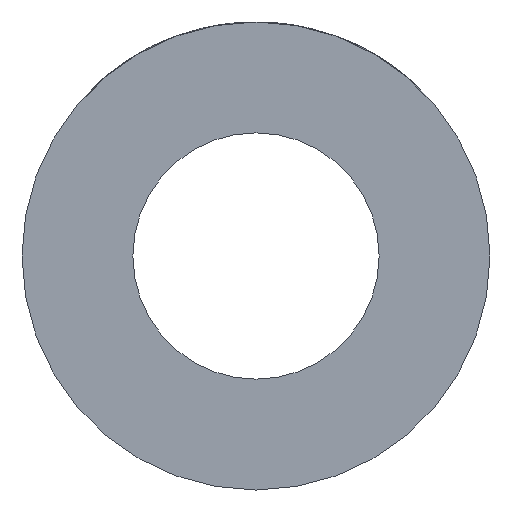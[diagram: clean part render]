
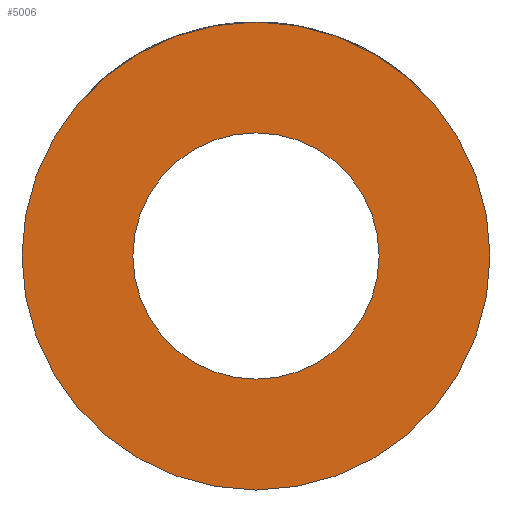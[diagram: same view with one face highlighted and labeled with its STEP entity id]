
A CAD part, left-side view. The second image highlights one B-rep face of the part: STEP entity #5006.
In plain terms, the highlighted planar face has unit normal (-1, 0, 0).
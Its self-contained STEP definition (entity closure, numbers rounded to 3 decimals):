
#112=PLANE('',#5397);
#345=CIRCLE('',#5396,9.5);
#346=CIRCLE('',#5398,5.);
#1497=ORIENTED_EDGE('',*,*,#3005,.T.);
#1498=ORIENTED_EDGE('',*,*,#3004,.F.);
#3004=EDGE_CURVE('',#3758,#3758,#345,.T.);
#3005=EDGE_CURVE('',#3759,#3759,#346,.T.);
#3758=VERTEX_POINT('',#7908);
#3759=VERTEX_POINT('',#7911);
#4260=EDGE_LOOP('',(#1497));
#4261=EDGE_LOOP('',(#1498));
#4627=FACE_BOUND('',#4260,.T.);
#4628=FACE_BOUND('',#4261,.T.);
#5006=ADVANCED_FACE('',(#4627,#4628),#112,.F.);
#5396=AXIS2_PLACEMENT_3D('',#7907,#5920,#5921);
#5397=AXIS2_PLACEMENT_3D('',#7909,#5922,#5923);
#5398=AXIS2_PLACEMENT_3D('',#7910,#5924,#5925);
#5920=DIRECTION('',(1.,0.,0.));
#5921=DIRECTION('',(0.,0.,-1.));
#5922=DIRECTION('',(1.,0.,0.));
#5923=DIRECTION('',(0.,0.,-1.));
#5924=DIRECTION('',(1.,0.,0.));
#5925=DIRECTION('',(0.,0.,-1.));
#7907=CARTESIAN_POINT('',(-27.5,0.,0.));
#7908=CARTESIAN_POINT('',(-27.5,0.,-9.5));
#7909=CARTESIAN_POINT('',(-27.5,0.,0.));
#7910=CARTESIAN_POINT('',(-27.5,0.,0.));
#7911=CARTESIAN_POINT('',(-27.5,0.,-5.));
